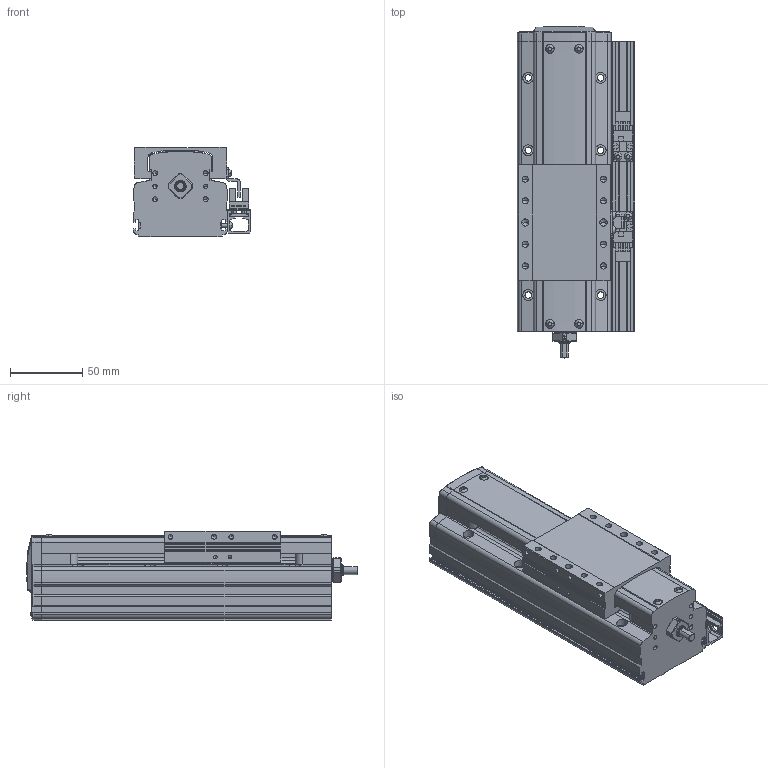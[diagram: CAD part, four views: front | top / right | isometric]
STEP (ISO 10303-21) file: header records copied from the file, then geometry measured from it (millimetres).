
FILE_DESCRIPTION(('STEP AP214'),'1');
FILE_NAME('Z:/Web/3D/PSA65/STP/PSA65-050 (3D)/PSA65ㅁㅁ-050+3SR.stp','2014-06-25T01:24:48',(' '),(' '),'Spatial InterOp 3D',' ',' ');
FILE_SCHEMA(('automotive_design'));
Length unit declared in the file: millimetre
Products named in the file (58): SLIDE; RRCV-PA060; 1; 2; 3; 4; 5; 6; 7; 8; 9; 10; 11; 12; 13; 14; 15; 16; 17; 18; 19; 20; 21; 22; 23; 24; 25; 26; 27; 28; 29; 30; 31; 스크루 : Round - M3.0 x 8.0; RN8 x 0.75; SHAFT-SAN65; BASE; 스크루 : Round - M3.0 x 6.0; EE-SX674; SBK-SX674-352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
Bounding box: 81 x 229.3 x 62 mm (x, y, z)
Volume: 709030.5 mm3; surface area: 141260.9 mm2
Topology: 58 solids, 58 shells, 1926 faces, 5111 edges, 3299 vertices
Faces by surface type: plane 1243, cylinder 465, cone 149, sphere 38, torus 16, bspline 15
Entity records: 76547 total; most frequent: CARTESIAN_POINT 11809, DIRECTION 10144, ORIENTED_EDGE 10054, EDGE_CURVE 5027, LINE 3676, VECTOR 3676, VERTEX_POINT 3299, AXIS2_PLACEMENT_3D 3234
